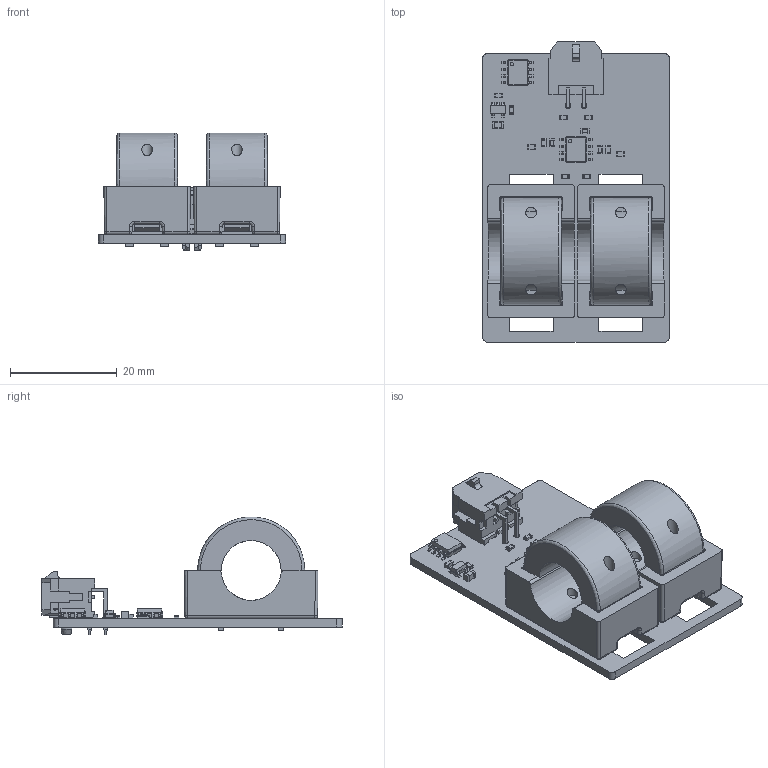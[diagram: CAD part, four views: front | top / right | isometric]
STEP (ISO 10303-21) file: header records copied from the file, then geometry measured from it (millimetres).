
FILE_DESCRIPTION(/* description */ (''),/* implementation_level */ '2;1');
FILE_NAME(/* name */ 'G:/My Drive/03 - PRODUCTS/0301 - Standard Products/030108 - DualClamp/MDC_DR_10S_A/cad_files/MDC_DI_10S_A_XXX.step',/* time_stamp */ '2022-03-18T12:53:05+01:00',/* author */ (''),/* organization */ (''),/* preprocessor_version */ 'ST-DEVELOPER v18.1',/* originating_system */ 'Autodesk Translation Framework v10.13.0.1454',/* authorisation */ '');
FILE_SCHEMA (('AUTOMOTIVE_DESIGN { 1 0 10303 214 3 1 1 }'));
Length unit declared in the file: millimetre
Products named in the file (22): MDC_DI_10S_A_XXX; SOT-23-5; SOLID; Molex_0430450400; SOLID (4); C_0805_2012Metric; SOLID (5); R_0603_1608Metric; SOLID (2); C_0603_1608Metric; SOLID (3); SOIC-8_3.9x4.9mm_P1.27mm; SOLID (1); COMPOUND (1); CO-10-SF_assembly_mono; CO-10-SF_upper_part_mono; CO-10-SF_lower_part_mono; CO-10-SF_assembly_mono_1; CO-10-SF_upper_part_mono_1; CO-10-SF_UPPER_PART; CO-10-SF_lower_part_mono_1; CO-10-SF_LOWER_PART
Assembly tree (47 placements, depth 4):
  MDC_DI_10S_A_XXX
    SOT-23-5
      SOLID
    SOIC-8_3.9x4.9mm_P1.27mm  x4
      SOLID (1)
    R_0603_1608Metric  x11
      SOLID (2)
    C_0603_1608Metric  x12
      SOLID (3)
    Molex_0430450400
      SOLID (4)
    C_0805_2012Metric
      SOLID (5)
    COMPOUND (1)
    CO-10-SF_assembly_mono
      CO-10-SF_upper_part_mono
        CO-10-SF_UPPER_PART
      CO-10-SF_lower_part_mono
        CO-10-SF_LOWER_PART
    CO-10-SF_assembly_mono_1
      CO-10-SF_upper_part_mono_1
        CO-10-SF_UPPER_PART
      CO-10-SF_lower_part_mono_1
        CO-10-SF_LOWER_PART
Bounding box: 35 x 56.16 x 22.07 mm (x, y, z)
Volume: 10269.2 mm3; surface area: 12642.8 mm2
Topology: 35 solids, 35 shells, 2195 faces, 5687 edges, 3599 vertices
Faces by surface type: plane 1491, cylinder 632, bspline 44, sphere 24, cone 2, torus 2
Full cylindrical faces by diameter (mm): 0.6 x4, 1 x8, 1.07 x4, 2 x8, 3.05 x1
Entity records: 30743 total; most frequent: CARTESIAN_POINT 6982, ORIENTED_EDGE 4774, DIRECTION 4682, EDGE_CURVE 2387, LINE 1896, VECTOR 1896, VERTEX_POINT 1506, AXIS2_PLACEMENT_3D 1393
